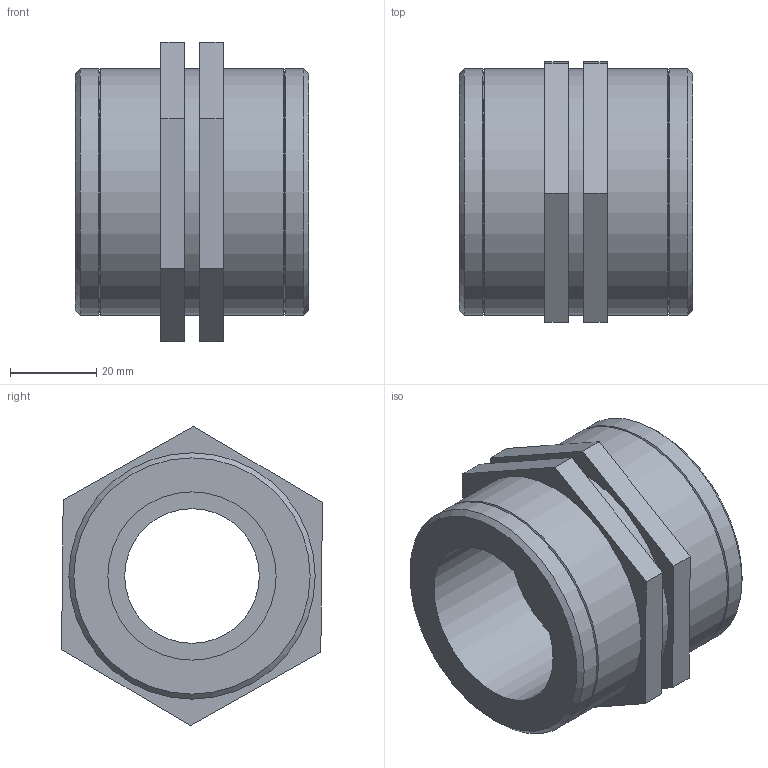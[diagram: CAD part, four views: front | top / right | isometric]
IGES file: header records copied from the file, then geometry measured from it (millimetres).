
Global section: file name: 050107013_0501070130A.ipt; native system: Autodesk Inventor 2015; preprocessor: unknown; author: KIM; date: 20170618.093104; units: millimetre
Bounding box: 54 x 60.36 x 69.28 mm (x, y, z)
Volume: 80988.1 mm3; surface area: 22301.8 mm2
Topology: 1 solids, 1 shells, 34 faces, 76 edges, 50 vertices
Faces by surface type: plane 20, cone 6, cylinder 5, revolution 3
Full cylindrical faces by diameter (mm): 57 x5
